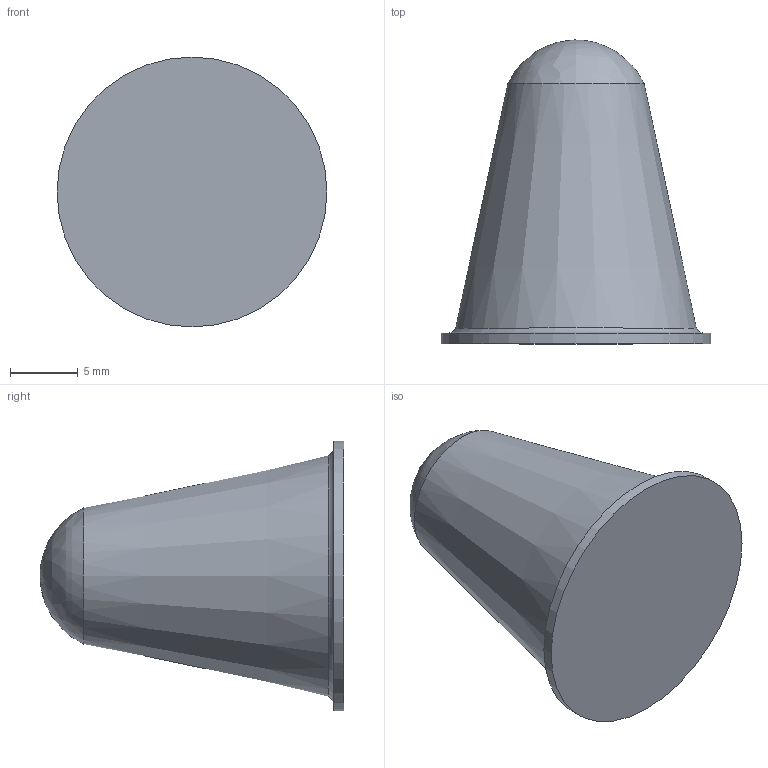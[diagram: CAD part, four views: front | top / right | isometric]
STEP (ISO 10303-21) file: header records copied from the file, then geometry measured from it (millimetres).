
FILE_DESCRIPTION(/* description */ (''),/* implementation_level */ '2;1');
FILE_NAME(/* name */ 'C:/Users/Mark/Downloads/STEP Files/BS57.step',/* time_stamp */ '2020-02-10T13:07:21-05:00',/* author */ (''),/* organization */ (''),/* preprocessor_version */ 'ST-DEVELOPER v18',/* originating_system */ 'Autodesk Translation Framework v8.12.0.6',/* authorisation */ '');
FILE_SCHEMA (('AUTOMOTIVE_DESIGN { 1 0 10303 214 3 1 1 }'));
Length unit declared in the file: inch
Products named in the file (1): BS57
Bounding box: 19.99 x 22.5 x 19.99 mm (x, y, z)
Volume: 3334.3 mm3; surface area: 1359.6 mm2
Topology: 1 solids, 1 shells, 6 faces, 17 edges, 13 vertices
Faces by surface type: plane 2, bspline 1, cone 1, torus 1, cylinder 1
Full cylindrical faces by diameter (mm): 19.99 x1
Entity records: 267 total; most frequent: CARTESIAN_POINT 62, DIRECTION 42, ORIENTED_EDGE 32, AXIS2_PLACEMENT_3D 20, EDGE_CURVE 16, CIRCLE 14, VERTEX_POINT 13, EDGE_LOOP 7
